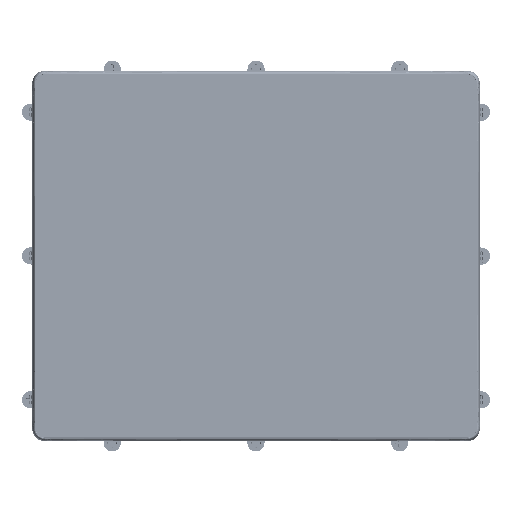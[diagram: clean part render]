
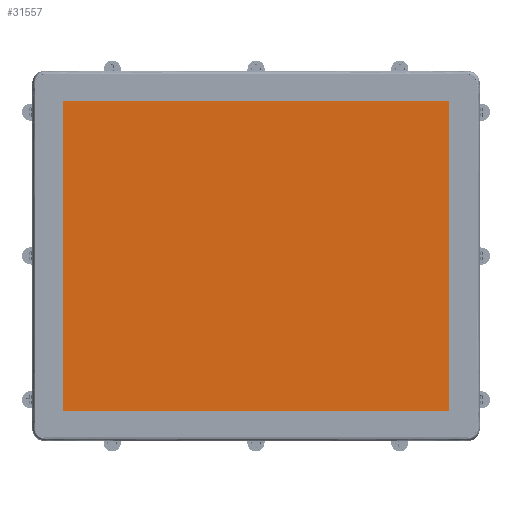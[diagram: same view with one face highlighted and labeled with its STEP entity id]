
A CAD part, top view. The second image highlights one B-rep face of the part: STEP entity #31557.
In plain terms, the highlighted planar face has unit normal (0, 0, 1).
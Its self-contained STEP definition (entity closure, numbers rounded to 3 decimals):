
#3319=DIRECTION('',(0.,-1.,0.));
#3320=VECTOR('',#3319,271.34);
#3321=CARTESIAN_POINT('',(-169.46,135.67,5.94));
#3322=LINE('',#3321,#3320);
#3323=DIRECTION('',(-1.,0.,0.));
#3324=VECTOR('',#3323,338.92);
#3325=CARTESIAN_POINT('',(169.46,135.67,5.94));
#3326=LINE('',#3325,#3324);
#3327=DIRECTION('',(0.,1.,0.));
#3328=VECTOR('',#3327,271.34);
#3329=CARTESIAN_POINT('',(169.46,-135.67,5.94));
#3330=LINE('',#3329,#3328);
#3331=DIRECTION('',(1.,0.,0.));
#3332=VECTOR('',#3331,338.92);
#3333=CARTESIAN_POINT('',(-169.46,-135.67,5.94));
#3334=LINE('',#3333,#3332);
#27432=CARTESIAN_POINT('',(-169.46,135.67,5.94));
#27434=VERTEX_POINT('',#27432);
#27437=CARTESIAN_POINT('',(-169.46,-135.67,5.94));
#27439=VERTEX_POINT('',#27437);
#27440=CARTESIAN_POINT('',(169.46,135.67,5.94));
#27442=VERTEX_POINT('',#27440);
#27444=CARTESIAN_POINT('',(169.46,-135.67,5.94));
#27446=VERTEX_POINT('',#27444);
#31546=CARTESIAN_POINT('',(0.,0.,5.94));
#31547=DIRECTION('',(0.,0.,1.));
#31548=DIRECTION('',(1.,0.,0.));
#31549=AXIS2_PLACEMENT_3D('',#31546,#31547,#31548);
#31550=PLANE('',#31549);
#31551=ORIENTED_EDGE('',*,*,#31469,.F.);
#31552=ORIENTED_EDGE('',*,*,#31493,.F.);
#31553=ORIENTED_EDGE('',*,*,#31512,.F.);
#31554=ORIENTED_EDGE('',*,*,#31532,.F.);
#31555=EDGE_LOOP('',(#31551,#31552,#31553,#31554));
#31556=FACE_OUTER_BOUND('',#31555,.F.);
#31557=ADVANCED_FACE('',(#31556),#31550,.T.);
#31469=EDGE_CURVE('',#27434,#27439,#3322,.T.);
#31493=EDGE_CURVE('',#27442,#27434,#3326,.T.);
#31512=EDGE_CURVE('',#27446,#27442,#3330,.T.);
#31532=EDGE_CURVE('',#27439,#27446,#3334,.T.);
